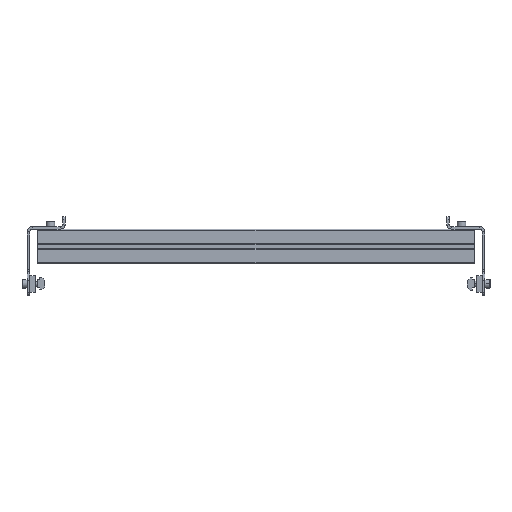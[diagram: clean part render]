
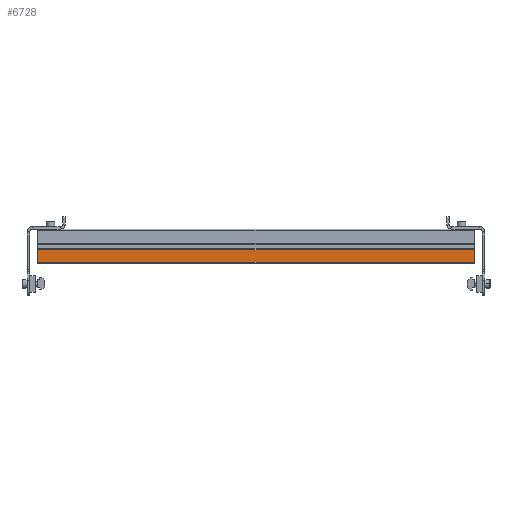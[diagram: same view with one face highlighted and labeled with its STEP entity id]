
A CAD part, top view. The second image highlights one B-rep face of the part: STEP entity #6728.
In plain terms, the highlighted planar face has unit normal (0, 0, 1) as drawn and (0, 1, 0) by its records, which use the part's own axes.
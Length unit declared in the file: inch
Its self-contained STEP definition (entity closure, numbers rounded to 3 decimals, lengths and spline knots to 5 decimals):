
#466 = LINE ( 'NONE', #5326, #2303 ) ;
#522 = ORIENTED_EDGE ( 'NONE', *, *, #978, .T. ) ;
#619 = CARTESIAN_POINT ( 'NONE',  ( 0.725, 0.441, -9.98 ) ) ;
#815 = VERTEX_POINT ( 'NONE', #5311 ) ;
#943 = VECTOR ( 'NONE', #1495, 39.37008 ) ;
#955 = ORIENTED_EDGE ( 'NONE', *, *, #2706, .F. ) ;
#978 = EDGE_CURVE ( 'NONE', #815, #5379, #2852, .T. ) ;
#1495 = DIRECTION ( 'NONE',  ( -1., 0., 0. ) ) ;
#1518 = ORIENTED_EDGE ( 'NONE', *, *, #2536, .F. ) ;
#1667 = CARTESIAN_POINT ( 'NONE',  ( 0.15033, 0.441, -75. ) ) ;
#1708 = DIRECTION ( 'NONE',  ( 0., 0., 1. ) ) ;
#1747 = VERTEX_POINT ( 'NONE', #619 ) ;
#2025 = PLANE ( 'NONE',  #5112 ) ;
#2303 = VECTOR ( 'NONE', #8352, 39.37008 ) ;
#2536 = EDGE_CURVE ( 'NONE', #815, #1747, #466, .T. ) ;
#2649 = VERTEX_POINT ( 'NONE', #3896 ) ;
#2706 = EDGE_CURVE ( 'NONE', #2649, #5379, #3937, .T. ) ;
#2852 = LINE ( 'NONE', #1667, #6067 ) ;
#3305 = CARTESIAN_POINT ( 'NONE',  ( 0.7875, 0.441, 9.98 ) ) ;
#3556 = LINE ( 'NONE', #4906, #4005 ) ;
#3896 = CARTESIAN_POINT ( 'NONE',  ( 0.725, 0.441, 9.98 ) ) ;
#3937 = LINE ( 'NONE', #3305, #943 ) ;
#3951 = CARTESIAN_POINT ( 'NONE',  ( -0.7875, 0.441, 75. ) ) ;
#4005 = VECTOR ( 'NONE', #4269, 39.37008 ) ;
#4269 = DIRECTION ( 'NONE',  ( 0., 0., -1. ) ) ;
#4378 = EDGE_LOOP ( 'NONE', ( #6533, #1518, #522, #955 ) ) ;
#4788 = CARTESIAN_POINT ( 'NONE',  ( 0.15033, 0.441, 9.98 ) ) ;
#4906 = CARTESIAN_POINT ( 'NONE',  ( 0.725, 0.441, 75. ) ) ;
#5112 = AXIS2_PLACEMENT_3D ( 'NONE', #3951, #5903, #6539 ) ;
#5311 = CARTESIAN_POINT ( 'NONE',  ( 0.15033, 0.441, -9.98 ) ) ;
#5326 = CARTESIAN_POINT ( 'NONE',  ( 0.7875, 0.441, -9.98 ) ) ;
#5379 = VERTEX_POINT ( 'NONE', #4788 ) ;
#5607 = EDGE_CURVE ( 'NONE', #2649, #1747, #3556, .T. ) ;
#5903 = DIRECTION ( 'NONE',  ( 0., -1., 0. ) ) ;
#6067 = VECTOR ( 'NONE', #1708, 39.37008 ) ;
#6533 = ORIENTED_EDGE ( 'NONE', *, *, #5607, .T. ) ;
#6539 = DIRECTION ( 'NONE',  ( 0., 0., -1. ) ) ;
#6728 = ADVANCED_FACE ( 'NONE', ( #7189 ), #2025, .F. ) ;
#7189 = FACE_OUTER_BOUND ( 'NONE', #4378, .T. ) ;
#8352 = DIRECTION ( 'NONE',  ( 1., 0., 0. ) ) ;
